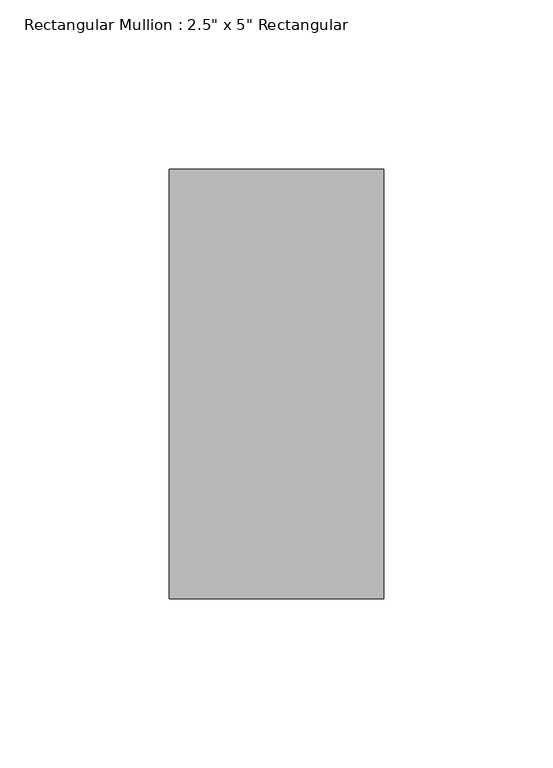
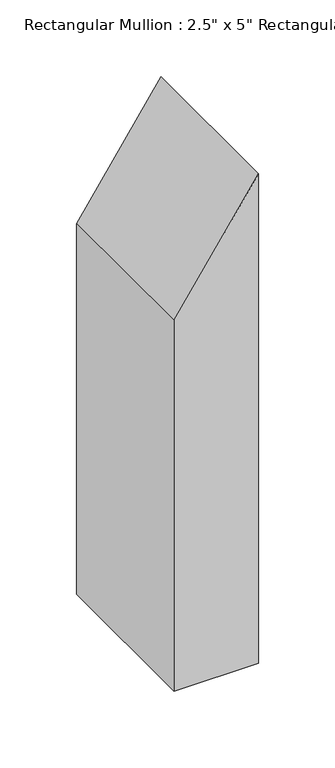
"""IFC4 building model written with IfcOpenShell, lengths in millimetres: member geometry."""

from ifc_helpers import new_model, si_unit, frame, origin, place, context, project, spatial, polyline, outline, extrude, source, transform, mapped, element, save


def member_2dfc6920(model_context):
    return source(origin(), model_context, "Body", "SweptSolid", [
        extrude(outline(polyline([(0.0, 0.0), (-94.6439953, -63.5), (-389.6791225, -63.5), (-389.6791225, 0.0), (0.0, 0.0)])), frame((0.0, -63.5, 0.0), z_axis=(0.0, 1.0, 0.0), x_axis=(0.0, 0.0, 1.0)), (0.0, 0.0, 1.0), 127.0),
    ])


if __name__ == "__main__":
    model = new_model("IFC4")
    model_context = context("Model", 3, world=origin())
    ifc_project = project(units=[si_unit("LENGTHUNIT", "METRE", prefix="MILLI")], contexts=[model_context])
    site = spatial("IfcSite", under=ifc_project)
    building = spatial("IfcBuilding", under=site)
    placement = place(None, origin())
    member_shape = member_2dfc6920(model_context)
    element("IfcMember", 1, ObjectType="Rectangular Mullion : 2.5\" x 5\" Rectangular", at=placement, inside=building, context=model_context, shape_type="MappedRepresentation", body=[
        mapped(member_shape, transform((0.0, 0.0, 0.0), x_axis=(1.0, 0.0, 0.0), y_axis=(0.0, 1.0, 0.0), z_axis=(0.0, 0.0, 1.0))),
    ])
    save(model, "model.ifc")
